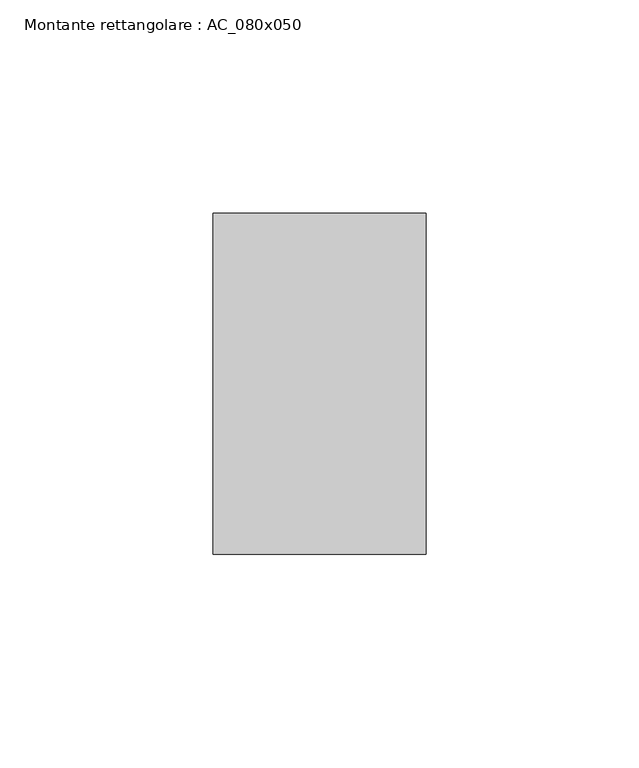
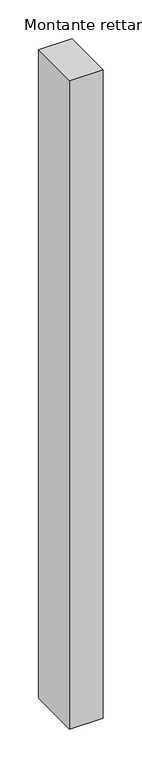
"""IFC4 building model written with IfcOpenShell, lengths in millimetres: member geometry, Montante rettangolare : AC_080x050."""

from ifc_helpers import new_model, si_unit, frame, origin, place, context, project, spatial, polyline, outline, extrude, source, transform, mapped, element, save


def montante_rettangolare_ac_080x050_d52ce292(model_context):
    return source(origin(), model_context, "Body", "SweptSolid", [
        extrude(outline(polyline([(0.0, 40.0), (0.0, -40.0), (-50.0, -40.0), (-50.0, 40.0), (0.0, 40.0)])), frame((0.0, 0.0, -1020.0), z_axis=(0.0, 0.0, 1.0), x_axis=(1.0, 0.0, 0.0)), (0.0, 0.0, 1.0), 1020.0),
    ])


if __name__ == "__main__":
    model = new_model("IFC4")
    model_context = context("Model", 3, world=origin())
    ifc_project = project(units=[si_unit("LENGTHUNIT", "METRE", prefix="MILLI")], contexts=[model_context])
    site = spatial("IfcSite", under=ifc_project)
    building = spatial("IfcBuilding", under=site)
    placement = place(None, origin())
    montante_rettangolare_ac_080x050_shape = montante_rettangolare_ac_080x050_d52ce292(model_context)
    element("IfcMember", 1, ObjectType="Montante rettangolare : AC_080x050", at=placement, inside=building, context=model_context, shape_type="MappedRepresentation", body=[
        mapped(montante_rettangolare_ac_080x050_shape, transform((0.0, 0.0, 0.0), x_axis=(1.0, 0.0, 0.0), y_axis=(0.0, 1.0, 0.0), z_axis=(0.0, 0.0, 1.0))),
    ])
    save(model, "model.ifc")
